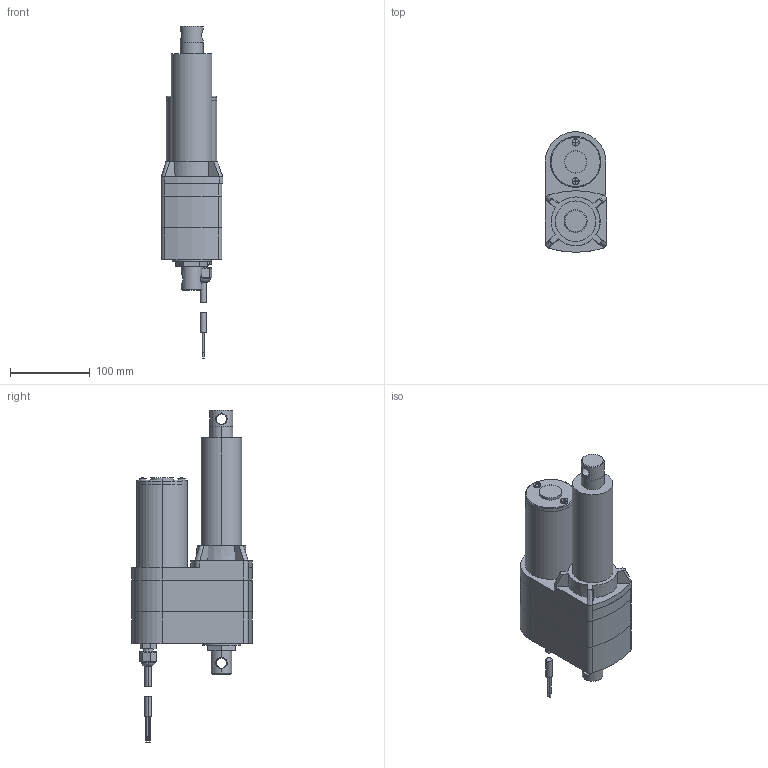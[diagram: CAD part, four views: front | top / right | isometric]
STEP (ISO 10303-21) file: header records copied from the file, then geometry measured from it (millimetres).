
FILE_DESCRIPTION (( 'STEP AP203' ), '1' );
FILE_NAME ('LA5_ACME_4.step', '2021-02-24T15:20:00', ( '' ), ( '' ), 'SwSTEP 2.0', 'SolidWorks 2017', '' );
FILE_SCHEMA (( 'CONFIG_CONTROL_DESIGN' ));
Length unit declared in the file: millimetre
Products named in the file (1): LA5_ACME_4
Bounding box: 77.22 x 151.29 x 416.51 mm (x, y, z)
Volume: 1813242.4 mm3; surface area: 184262.9 mm2
Topology: 14 solids, 14 shells, 315 faces, 680 edges, 422 vertices
Faces by surface type: plane 154, cylinder 101, cone 24, bspline 22, torus 10, sphere 4
Entity records: 10570 total; most frequent: CARTESIAN_POINT 3606, DIRECTION 1477, ORIENTED_EDGE 1360, EDGE_CURVE 680, AXIS2_PLACEMENT_3D 573, VERTEX_POINT 422, EDGE_LOOP 352, LINE 331
